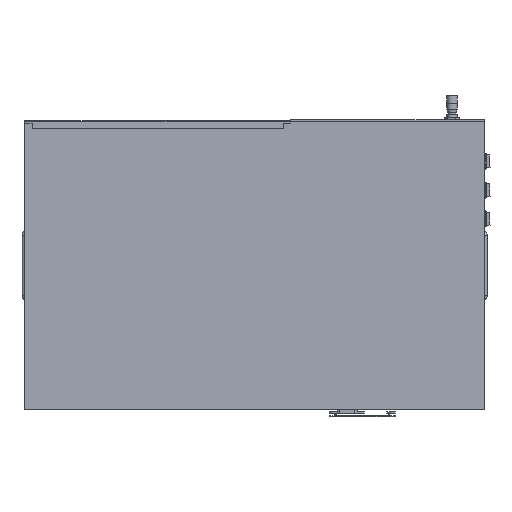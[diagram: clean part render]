
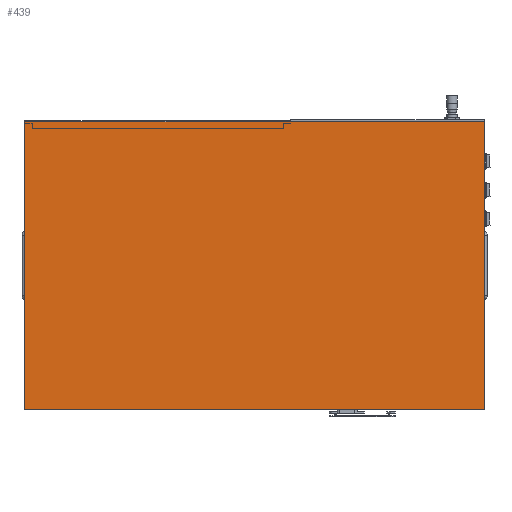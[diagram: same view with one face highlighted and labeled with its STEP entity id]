
A CAD part, front view. The second image highlights one B-rep face of the part: STEP entity #439.
In plain terms, the highlighted planar face has unit normal (0, -1, 0).
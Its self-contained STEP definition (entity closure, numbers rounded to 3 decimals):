
#439 = ADVANCED_FACE ( 'NONE', ( #38190 ), #115528, .F. ) ;
#531 = DIRECTION ( 'NONE',  ( 0., 1., 0. ) ) ;
#3003 = CARTESIAN_POINT ( 'NONE',  ( 640., 0., 0. ) ) ;
#5713 = AXIS2_PLACEMENT_3D ( 'NONE', #3003, #531, #68479 ) ;
#7761 = DIRECTION ( 'NONE',  ( -1., 0., 0. ) ) ;
#11492 = CARTESIAN_POINT ( 'NONE',  ( 640., 0., 0. ) ) ;
#19554 = DIRECTION ( 'NONE',  ( 0., 0., -1. ) ) ;
#25660 = DIRECTION ( 'NONE',  ( 0., 0., -1. ) ) ;
#30421 = VECTOR ( 'NONE', #25660, 1000. ) ;
#30431 = LINE ( 'NONE', #74966, #34434 ) ;
#34434 = VECTOR ( 'NONE', #67517, 1000. ) ;
#36223 = CARTESIAN_POINT ( 'NONE',  ( 0., 0., -400. ) ) ;
#36279 = ORIENTED_EDGE ( 'NONE', *, *, #94272, .T. ) ;
#38190 = FACE_OUTER_BOUND ( 'NONE', #93857, .T. ) ;
#55219 = EDGE_CURVE ( 'NONE', #65083, #107008, #109175, .T. ) ;
#55282 = EDGE_CURVE ( 'NONE', #100897, #107008, #72642, .T. ) ;
#59755 = EDGE_CURVE ( 'NONE', #68385, #100897, #93186, .T. ) ;
#65083 = VERTEX_POINT ( 'NONE', #96459 ) ;
#67096 = CARTESIAN_POINT ( 'NONE',  ( 640., 0., -400. ) ) ;
#67517 = DIRECTION ( 'NONE',  ( -1., 0., 0. ) ) ;
#68385 = VERTEX_POINT ( 'NONE', #11492 ) ;
#68479 = DIRECTION ( 'NONE',  ( 0., 0., 1. ) ) ;
#72642 = LINE ( 'NONE', #91211, #111391 ) ;
#73994 = CARTESIAN_POINT ( 'NONE',  ( 640., 0., 0. ) ) ;
#74966 = CARTESIAN_POINT ( 'NONE',  ( 640., 0., 0. ) ) ;
#80718 = CARTESIAN_POINT ( 'NONE',  ( 0., 0., 0. ) ) ;
#87650 = ORIENTED_EDGE ( 'NONE', *, *, #55219, .T. ) ;
#91211 = CARTESIAN_POINT ( 'NONE',  ( 640., 0., -400. ) ) ;
#93186 = LINE ( 'NONE', #73994, #118042 ) ;
#93857 = EDGE_LOOP ( 'NONE', ( #87650, #114480, #99885, #36279 ) ) ;
#94272 = EDGE_CURVE ( 'NONE', #68385, #65083, #30431, .T. ) ;
#96459 = CARTESIAN_POINT ( 'NONE',  ( 0., 0., 0. ) ) ;
#99885 = ORIENTED_EDGE ( 'NONE', *, *, #59755, .F. ) ;
#100897 = VERTEX_POINT ( 'NONE', #67096 ) ;
#107008 = VERTEX_POINT ( 'NONE', #36223 ) ;
#109175 = LINE ( 'NONE', #80718, #30421 ) ;
#111391 = VECTOR ( 'NONE', #7761, 1000. ) ;
#114480 = ORIENTED_EDGE ( 'NONE', *, *, #55282, .F. ) ;
#115528 = PLANE ( 'NONE',  #5713 ) ;
#118042 = VECTOR ( 'NONE', #19554, 1000. ) ;
